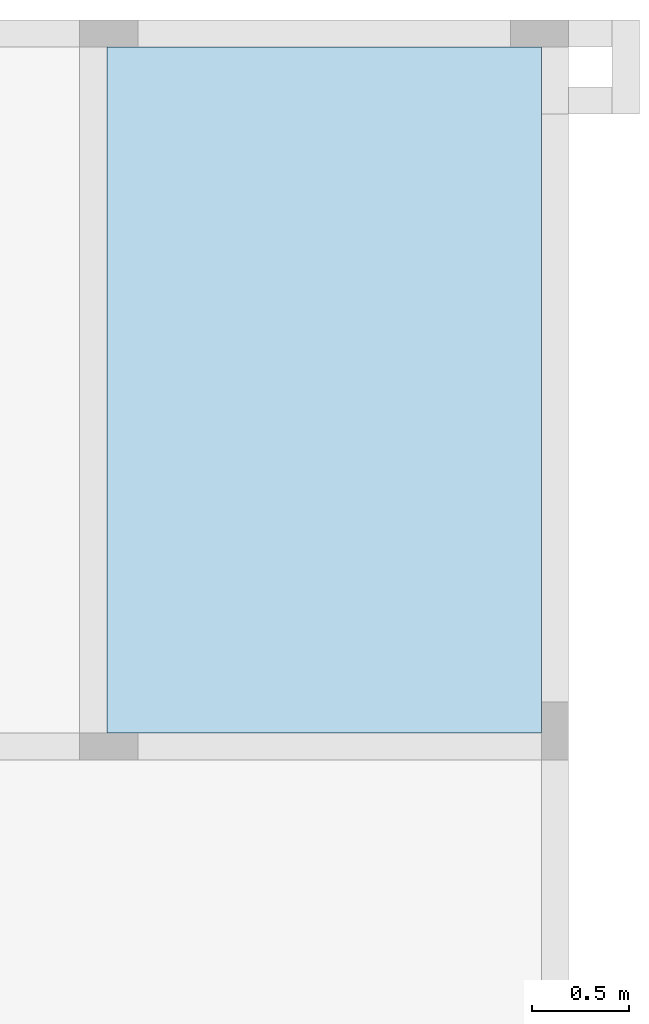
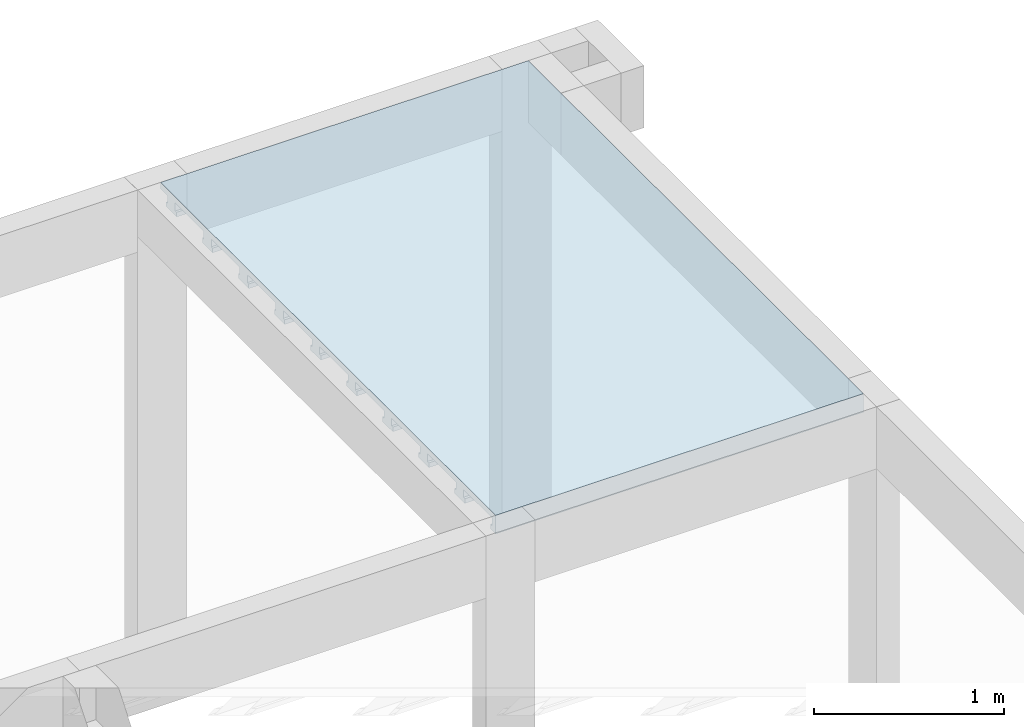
# One storey, part 7 of 7: 1 slab.
"""IFC4 building model written with IfcOpenShell, lengths in centimetres."""

from ifc_helpers import new_model, si_unit, derived_unit, frame, origin_with_axes, place, context, project, spatial, polyline, outline, extrude, faceted_brep, material, element, save


model = new_model("IFC4")

# Units and contexts
model_context = context("Model", 3, precision=1e-05, world=origin_with_axes(), identifier="Body")
ifc_project = project(units=[si_unit("LENGTHUNIT", "METRE", prefix="CENTI"), si_unit("VOLUMEUNIT", "CUBIC_METRE"), si_unit("AREAUNIT", "SQUARE_METRE"), si_unit("POWERUNIT", "WATT"), si_unit("LUMINOUSFLUXUNIT", "LUMEN"), si_unit("ELECTRICCURRENTUNIT", "AMPERE"), si_unit("PRESSUREUNIT", "PASCAL", prefix="KILO"), si_unit("MASSUNIT", "GRAM", prefix="KILO"), si_unit("PLANEANGLEUNIT", "RADIAN"), derived_unit("VOLUMETRICFLOWRATEUNIT", [(si_unit("LENGTHUNIT", "METRE"), 3), (si_unit("TIMEUNIT", "SECOND"), -1)])], contexts=[model_context])

# Site, building, storey
site_placement = place(None, origin_with_axes())
site = spatial("IfcSite", under=ifc_project, at=site_placement)
building_placement = place(site_placement, frame((0.0, 0.0, 24.0)))
building = spatial("IfcBuilding", under=site, at=building_placement)
storey_placement = place(building_placement, frame((0.0, 0.0, 312.0), z_axis=(0.0, 0.0, 1.0), x_axis=(1.0, 0.0, 0.0)))
storey = spatial("IfcBuildingStorey", under=building, at=storey_placement, Name="RESPALDO", CompositionType="ELEMENT", Elevation=336.0)

# Slab
ifc_material = material(Name="Concreto")
slab_placement = place(storey_placement, frame((1385.2, 1379.2605, 0.0), z_axis=(0.0, 0.0, 1.0), x_axis=(1.0, 0.0, 0.0)))
element("IfcSlab", 1, at=slab_placement, inside=storey, material=ifc_material, Name="L3", PredefinedType="FLOOR", context=model_context, shape_type="SolidModel", body=[
    extrude(outline(polyline([(111.979, -176.739), (111.98, 176.74), (-111.98, 176.74), (-111.98, -176.739), (111.979, -176.739), (111.979, -176.739)])), frame((0.0, -0.0005, -4.0), z_axis=(0.0, 0.0, 1.0), x_axis=(1.0, 0.0, 0.0)), (0.0, 0.0, 1.0), 4.0),
    faceted_brep([(-111.98, -134.7405, -12.0), (111.9795, -134.7405, -12.0), (111.9795, -142.7405, -12.0), (-111.98, -142.7405, -12.0), (-111.98, -142.7405, -4.0), (111.9795, -142.7405, -4.0), (111.9795, -134.7405, -4.0), (-111.98, -134.7405, -4.0)], [[[0, 1, 2, 3]], [[4, 5, 6, 7]], [[4, 3, 5]], [[3, 2, 5]], [[5, 2, 6]], [[2, 1, 6]], [[6, 1, 7]], [[1, 0, 7]], [[7, 0, 4]], [[0, 3, 4]]]),
    faceted_brep([(-111.98, -133.2405, -12.0), (111.9795, -133.2405, -12.0), (111.9795, -134.7405, -12.0), (-111.98, -134.7405, -12.0), (-111.98, -134.7405, -9.0), (111.9795, -134.7405, -9.0), (111.9795, -133.2405, -9.0), (-111.98, -133.2405, -9.0)], [[[0, 1, 2, 3]], [[4, 5, 6, 7]], [[4, 3, 5]], [[3, 2, 5]], [[5, 2, 6]], [[2, 1, 6]], [[6, 1, 7]], [[1, 0, 7]], [[7, 0, 4]], [[0, 3, 4]]]),
    faceted_brep([(-111.98, -142.7405, -12.0), (111.9795, -142.7405, -12.0), (111.9795, -144.2405, -12.0), (-111.98, -144.2405, -12.0), (-111.98, -144.2405, -9.0), (111.9795, -144.2405, -9.0), (111.9795, -142.7405, -9.0), (-111.98, -142.7405, -9.0)], [[[0, 1, 2, 3]], [[4, 5, 6, 7]], [[4, 3, 5]], [[3, 2, 5]], [[5, 2, 6]], [[2, 1, 6]], [[6, 1, 7]], [[1, 0, 7]], [[7, 0, 4]], [[0, 3, 4]]]),
    faceted_brep([(-111.98, -96.7405, -12.0), (111.9795, -96.7405, -12.0), (111.9795, -104.7405, -12.0), (-111.98, -104.7405, -12.0), (-111.98, -104.7405, -4.0), (111.9795, -104.7405, -4.0), (111.9795, -96.7405, -4.0), (-111.98, -96.7405, -4.0)], [[[0, 1, 2, 3]], [[4, 5, 6, 7]], [[4, 3, 5]], [[3, 2, 5]], [[5, 2, 6]], [[2, 1, 6]], [[6, 1, 7]], [[1, 0, 7]], [[7, 0, 4]], [[0, 3, 4]]]),
    faceted_brep([(-111.98, -95.2405, -12.0), (111.9795, -95.2405, -12.0), (111.9795, -96.7405, -12.0), (-111.98, -96.7405, -12.0), (-111.98, -96.7405, -9.0), (111.9795, -96.7405, -9.0), (111.9795, -95.2405, -9.0), (-111.98, -95.2405, -9.0)], [[[0, 1, 2, 3]], [[4, 5, 6, 7]], [[4, 3, 5]], [[3, 2, 5]], [[5, 2, 6]], [[2, 1, 6]], [[6, 1, 7]], [[1, 0, 7]], [[7, 0, 4]], [[0, 3, 4]]]),
    faceted_brep([(-111.98, -104.7405, -12.0), (111.9795, -104.7405, -12.0), (111.9795, -106.2405, -12.0), (-111.98, -106.2405, -12.0), (-111.98, -106.2405, -9.0), (111.9795, -106.2405, -9.0), (111.9795, -104.7405, -9.0), (-111.98, -104.7405, -9.0)], [[[0, 1, 2, 3]], [[4, 5, 6, 7]], [[4, 3, 5]], [[3, 2, 5]], [[5, 2, 6]], [[2, 1, 6]], [[6, 1, 7]], [[1, 0, 7]], [[7, 0, 4]], [[0, 3, 4]]]),
    faceted_brep([(-111.98, -58.7405, -12.0), (111.9795, -58.7405, -12.0), (111.9795, -66.7405, -12.0), (-111.98, -66.7405, -12.0), (-111.98, -66.7405, -4.0), (111.9795, -66.7405, -4.0), (111.9795, -58.7405, -4.0), (-111.98, -58.7405, -4.0)], [[[0, 1, 2, 3]], [[4, 5, 6, 7]], [[4, 3, 5]], [[3, 2, 5]], [[5, 2, 6]], [[2, 1, 6]], [[6, 1, 7]], [[1, 0, 7]], [[7, 0, 4]], [[0, 3, 4]]]),
    faceted_brep([(-111.98, -57.2405, -12.0), (111.9795, -57.2405, -12.0), (111.9795, -58.7405, -12.0), (-111.98, -58.7405, -12.0), (-111.98, -58.7405, -9.0), (111.9795, -58.7405, -9.0), (111.9795, -57.2405, -9.0), (-111.98, -57.2405, -9.0)], [[[0, 1, 2, 3]], [[4, 5, 6, 7]], [[4, 3, 5]], [[3, 2, 5]], [[5, 2, 6]], [[2, 1, 6]], [[6, 1, 7]], [[1, 0, 7]], [[7, 0, 4]], [[0, 3, 4]]]),
    faceted_brep([(-111.98, -66.7405, -12.0), (111.9795, -66.7405, -12.0), (111.9795, -68.2405, -12.0), (-111.98, -68.2405, -12.0), (-111.98, -68.2405, -9.0), (111.9795, -68.2405, -9.0), (111.9795, -66.7405, -9.0), (-111.98, -66.7405, -9.0)], [[[0, 1, 2, 3]], [[4, 5, 6, 7]], [[4, 3, 5]], [[3, 2, 5]], [[5, 2, 6]], [[2, 1, 6]], [[6, 1, 7]], [[1, 0, 7]], [[7, 0, 4]], [[0, 3, 4]]]),
    faceted_brep([(-111.98, -20.7405, -12.0), (111.9795, -20.7405, -12.0), (111.9795, -28.7405, -12.0), (-111.98, -28.7405, -12.0), (-111.98, -28.7405, -4.0), (111.9795, -28.7405, -4.0), (111.9795, -20.7405, -4.0), (-111.98, -20.7405, -4.0)], [[[0, 1, 2, 3]], [[4, 5, 6, 7]], [[4, 3, 5]], [[3, 2, 5]], [[5, 2, 6]], [[2, 1, 6]], [[6, 1, 7]], [[1, 0, 7]], [[7, 0, 4]], [[0, 3, 4]]]),
    faceted_brep([(-111.98, -19.2405, -12.0), (111.9795, -19.2405, -12.0), (111.9795, -20.7405, -12.0), (-111.98, -20.7405, -12.0), (-111.98, -20.7405, -9.0), (111.9795, -20.7405, -9.0), (111.9795, -19.2405, -9.0), (-111.98, -19.2405, -9.0)], [[[0, 1, 2, 3]], [[4, 5, 6, 7]], [[4, 3, 5]], [[3, 2, 5]], [[5, 2, 6]], [[2, 1, 6]], [[6, 1, 7]], [[1, 0, 7]], [[7, 0, 4]], [[0, 3, 4]]]),
    faceted_brep([(-111.98, -28.7405, -12.0), (111.9795, -28.7405, -12.0), (111.9795, -30.2405, -12.0), (-111.98, -30.2405, -12.0), (-111.98, -30.2405, -9.0), (111.9795, -30.2405, -9.0), (111.9795, -28.7405, -9.0), (-111.98, -28.7405, -9.0)], [[[0, 1, 2, 3]], [[4, 5, 6, 7]], [[4, 3, 5]], [[3, 2, 5]], [[5, 2, 6]], [[2, 1, 6]], [[6, 1, 7]], [[1, 0, 7]], [[7, 0, 4]], [[0, 3, 4]]]),
    faceted_brep([(-111.98, 17.2595, -12.0), (111.9795, 17.2595, -12.0), (111.9795, 9.2595, -12.0), (-111.98, 9.2595, -12.0), (-111.98, 9.2595, -4.0), (111.9795, 9.2595, -4.0), (111.9795, 17.2595, -4.0), (-111.98, 17.2595, -4.0)], [[[0, 1, 2, 3]], [[4, 5, 6, 7]], [[4, 3, 5]], [[3, 2, 5]], [[5, 2, 6]], [[2, 1, 6]], [[6, 1, 7]], [[1, 0, 7]], [[7, 0, 4]], [[0, 3, 4]]]),
    faceted_brep([(-111.98, 18.7595, -12.0), (111.9795, 18.7595, -12.0), (111.9795, 17.2595, -12.0), (-111.98, 17.2595, -12.0), (-111.98, 17.2595, -9.0), (111.9795, 17.2595, -9.0), (111.9795, 18.7595, -9.0), (-111.98, 18.7595, -9.0)], [[[0, 1, 2, 3]], [[4, 5, 6, 7]], [[4, 3, 5]], [[3, 2, 5]], [[5, 2, 6]], [[2, 1, 6]], [[6, 1, 7]], [[1, 0, 7]], [[7, 0, 4]], [[0, 3, 4]]]),
    faceted_brep([(-111.98, 9.2595, -12.0), (111.9795, 9.2595, -12.0), (111.9795, 7.7595, -12.0), (-111.98, 7.7595, -12.0), (-111.98, 7.7595, -9.0), (111.9795, 7.7595, -9.0), (111.9795, 9.2595, -9.0), (-111.98, 9.2595, -9.0)], [[[0, 1, 2, 3]], [[4, 5, 6, 7]], [[4, 3, 5]], [[3, 2, 5]], [[5, 2, 6]], [[2, 1, 6]], [[6, 1, 7]], [[1, 0, 7]], [[7, 0, 4]], [[0, 3, 4]]]),
    faceted_brep([(-111.98, 55.2595, -12.0), (111.9795, 55.2595, -12.0), (111.9795, 47.2595, -12.0), (-111.98, 47.2595, -12.0), (-111.98, 47.2595, -4.0), (111.9795, 47.2595, -4.0), (111.9795, 55.2595, -4.0), (-111.98, 55.2595, -4.0)], [[[0, 1, 2, 3]], [[4, 5, 6, 7]], [[4, 3, 5]], [[3, 2, 5]], [[5, 2, 6]], [[2, 1, 6]], [[6, 1, 7]], [[1, 0, 7]], [[7, 0, 4]], [[0, 3, 4]]]),
    faceted_brep([(-111.98, 56.7595, -12.0), (111.9795, 56.7595, -12.0), (111.9795, 55.2595, -12.0), (-111.98, 55.2595, -12.0), (-111.98, 55.2595, -9.0), (111.9795, 55.2595, -9.0), (111.9795, 56.7595, -9.0), (-111.98, 56.7595, -9.0)], [[[0, 1, 2, 3]], [[4, 5, 6, 7]], [[4, 3, 5]], [[3, 2, 5]], [[5, 2, 6]], [[2, 1, 6]], [[6, 1, 7]], [[1, 0, 7]], [[7, 0, 4]], [[0, 3, 4]]]),
    faceted_brep([(-111.98, 47.2595, -12.0), (111.9795, 47.2595, -12.0), (111.9795, 45.7595, -12.0), (-111.98, 45.7595, -12.0), (-111.98, 45.7595, -9.0), (111.9795, 45.7595, -9.0), (111.9795, 47.2595, -9.0), (-111.98, 47.2595, -9.0)], [[[0, 1, 2, 3]], [[4, 5, 6, 7]], [[4, 3, 5]], [[3, 2, 5]], [[5, 2, 6]], [[2, 1, 6]], [[6, 1, 7]], [[1, 0, 7]], [[7, 0, 4]], [[0, 3, 4]]]),
    faceted_brep([(-111.98, 93.2595, -12.0), (111.9795, 93.2595, -12.0), (111.9795, 85.2595, -12.0), (-111.98, 85.2595, -12.0), (-111.98, 85.2595, -4.0), (111.9795, 85.2595, -4.0), (111.9795, 93.2595, -4.0), (-111.98, 93.2595, -4.0)], [[[0, 1, 2, 3]], [[4, 5, 6, 7]], [[4, 3, 5]], [[3, 2, 5]], [[5, 2, 6]], [[2, 1, 6]], [[6, 1, 7]], [[1, 0, 7]], [[7, 0, 4]], [[0, 3, 4]]]),
    faceted_brep([(-111.98, 94.7595, -12.0), (111.9795, 94.7595, -12.0), (111.9795, 93.2595, -12.0), (-111.98, 93.2595, -12.0), (-111.98, 93.2595, -9.0), (111.9795, 93.2595, -9.0), (111.9795, 94.7595, -9.0), (-111.98, 94.7595, -9.0)], [[[0, 1, 2, 3]], [[4, 5, 6, 7]], [[4, 3, 5]], [[3, 2, 5]], [[5, 2, 6]], [[2, 1, 6]], [[6, 1, 7]], [[1, 0, 7]], [[7, 0, 4]], [[0, 3, 4]]]),
    faceted_brep([(-111.98, 85.2595, -12.0), (111.9795, 85.2595, -12.0), (111.9795, 83.7595, -12.0), (-111.98, 83.7595, -12.0), (-111.98, 83.7595, -9.0), (111.9795, 83.7595, -9.0), (111.9795, 85.2595, -9.0), (-111.98, 85.2595, -9.0)], [[[0, 1, 2, 3]], [[4, 5, 6, 7]], [[4, 3, 5]], [[3, 2, 5]], [[5, 2, 6]], [[2, 1, 6]], [[6, 1, 7]], [[1, 0, 7]], [[7, 0, 4]], [[0, 3, 4]]]),
    faceted_brep([(-111.98, 131.2595, -12.0), (111.9795, 131.2595, -12.0), (111.9795, 123.2595, -12.0), (-111.98, 123.2595, -12.0), (-111.98, 123.2595, -4.0), (111.9795, 123.2595, -4.0), (111.9795, 131.2595, -4.0), (-111.98, 131.2595, -4.0)], [[[0, 1, 2, 3]], [[4, 5, 6, 7]], [[4, 3, 5]], [[3, 2, 5]], [[5, 2, 6]], [[2, 1, 6]], [[6, 1, 7]], [[1, 0, 7]], [[7, 0, 4]], [[0, 3, 4]]]),
    faceted_brep([(-111.98, 132.7595, -12.0), (111.9795, 132.7595, -12.0), (111.9795, 131.2595, -12.0), (-111.98, 131.2595, -12.0), (-111.98, 131.2595, -9.0), (111.9795, 131.2595, -9.0), (111.9795, 132.7595, -9.0), (-111.98, 132.7595, -9.0)], [[[0, 1, 2, 3]], [[4, 5, 6, 7]], [[4, 3, 5]], [[3, 2, 5]], [[5, 2, 6]], [[2, 1, 6]], [[6, 1, 7]], [[1, 0, 7]], [[7, 0, 4]], [[0, 3, 4]]]),
    faceted_brep([(-111.98, 123.2595, -12.0), (111.9795, 123.2595, -12.0), (111.9795, 121.7595, -12.0), (-111.98, 121.7595, -12.0), (-111.98, 121.7595, -9.0), (111.9795, 121.7595, -9.0), (111.9795, 123.2595, -9.0), (-111.98, 123.2595, -9.0)], [[[0, 1, 2, 3]], [[4, 5, 6, 7]], [[4, 3, 5]], [[3, 2, 5]], [[5, 2, 6]], [[2, 1, 6]], [[6, 1, 7]], [[1, 0, 7]], [[7, 0, 4]], [[0, 3, 4]]]),
    faceted_brep([(-111.98, 169.2595, -12.0), (111.9795, 169.2595, -12.0), (111.9795, 161.2595, -12.0), (-111.98, 161.2595, -12.0), (-111.98, 161.2595, -4.0), (111.9795, 161.2595, -4.0), (111.9795, 169.2595, -4.0), (-111.98, 169.2595, -4.0)], [[[0, 1, 2, 3]], [[4, 5, 6, 7]], [[4, 3, 5]], [[3, 2, 5]], [[5, 2, 6]], [[2, 1, 6]], [[6, 1, 7]], [[1, 0, 7]], [[7, 0, 4]], [[0, 3, 4]]]),
    faceted_brep([(-111.98, 170.7595, -12.0), (111.9795, 170.7595, -12.0), (111.9795, 169.2595, -12.0), (-111.98, 169.2595, -12.0), (-111.98, 169.2595, -9.0), (111.9795, 169.2595, -9.0), (111.9795, 170.7595, -9.0), (-111.98, 170.7595, -9.0)], [[[0, 1, 2, 3]], [[4, 5, 6, 7]], [[4, 3, 5]], [[3, 2, 5]], [[5, 2, 6]], [[2, 1, 6]], [[6, 1, 7]], [[1, 0, 7]], [[7, 0, 4]], [[0, 3, 4]]]),
    faceted_brep([(-111.98, 161.2595, -12.0), (111.9795, 161.2595, -12.0), (111.9795, 159.7595, -12.0), (-111.98, 159.7595, -12.0), (-111.98, 159.7595, -9.0), (111.9795, 159.7595, -9.0), (111.9795, 161.2595, -9.0), (-111.98, 161.2595, -9.0)], [[[0, 1, 2, 3]], [[4, 5, 6, 7]], [[4, 3, 5]], [[3, 2, 5]], [[5, 2, 6]], [[2, 1, 6]], [[6, 1, 7]], [[1, 0, 7]], [[7, 0, 4]], [[0, 3, 4]]]),
    faceted_brep([(-111.98, -172.7405, -12.0), (111.9795, -172.7405, -12.0), (111.9795, -176.7395, -12.0), (-111.98, -176.7395, -12.0), (-111.98, -176.7395, -4.0), (111.9795, -176.7395, -4.0), (111.9795, -172.7405, -4.0), (-111.98, -172.7405, -4.0)], [[[0, 1, 2, 3]], [[4, 5, 6, 7]], [[4, 3, 5]], [[3, 2, 5]], [[5, 2, 6]], [[2, 1, 6]], [[6, 1, 7]], [[1, 0, 7]], [[7, 0, 4]], [[0, 3, 4]]]),
    faceted_brep([(-111.98, -171.2405, -12.0), (111.9795, -171.2405, -12.0), (111.9795, -172.7405, -12.0), (-111.98, -172.7405, -12.0), (-111.98, -172.7405, -9.0), (111.9795, -172.7405, -9.0), (111.9795, -171.2405, -9.0), (-111.98, -171.2405, -9.0)], [[[0, 1, 2, 3]], [[4, 5, 6, 7]], [[4, 3, 5]], [[3, 2, 5]], [[5, 2, 6]], [[2, 1, 6]], [[6, 1, 7]], [[1, 0, 7]], [[7, 0, 4]], [[0, 3, 4]]]),
])

save(model, "model.ifc")
